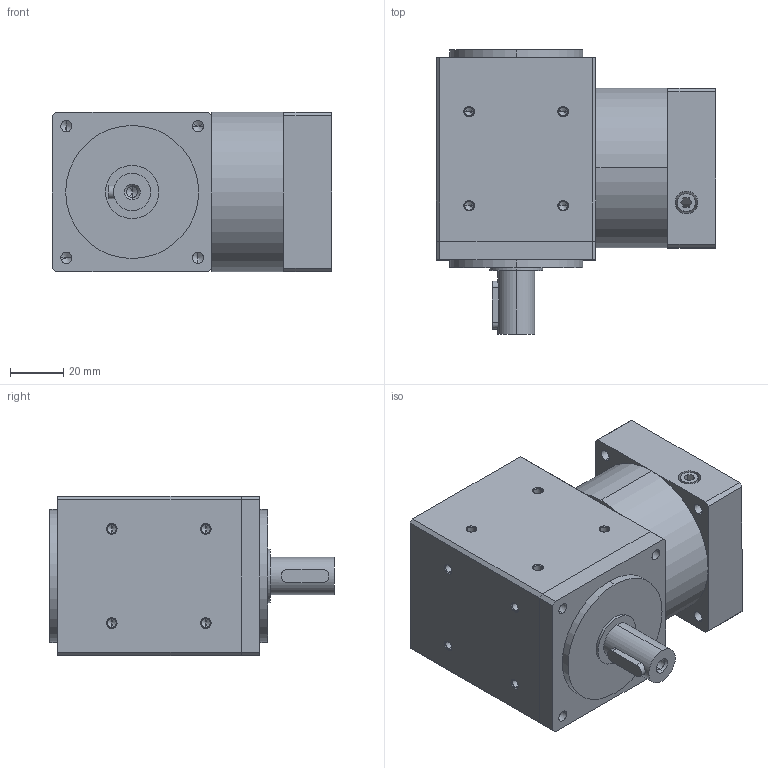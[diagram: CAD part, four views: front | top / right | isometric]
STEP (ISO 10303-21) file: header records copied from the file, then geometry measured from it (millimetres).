
FILE_DESCRIPTION (( 'STEP AP203' ), '1' );
FILE_NAME ('RLAS-060.STEP', '2010-05-27T18:49:50', ( 'render' ), ( '' ), 'SwSTEP 2.0', 'SolidWorks 2009', '' );
FILE_SCHEMA (( 'CONFIG_CONTROL_DESIGN' ));
Length unit declared in the file: millimetre
Products named in the file (1): RLAS-060
Bounding box: 105 x 107 x 60 mm (x, y, z)
Volume: 405575.7 mm3; surface area: 60349.8 mm2
Topology: 4 solids, 4 shells, 213 faces, 508 edges, 293 vertices
Faces by surface type: cylinder 99, cone 68, plane 46
Entity records: 6097 total; most frequent: DIRECTION 1112, CARTESIAN_POINT 1109, ORIENTED_EDGE 932, EDGE_CURVE 466, AXIS2_PLACEMENT_3D 436, VERTEX_POINT 293, EDGE_LOOP 265, LINE 240
